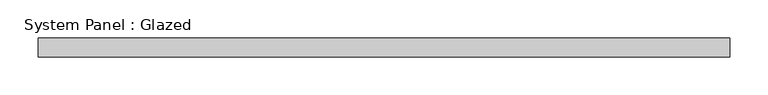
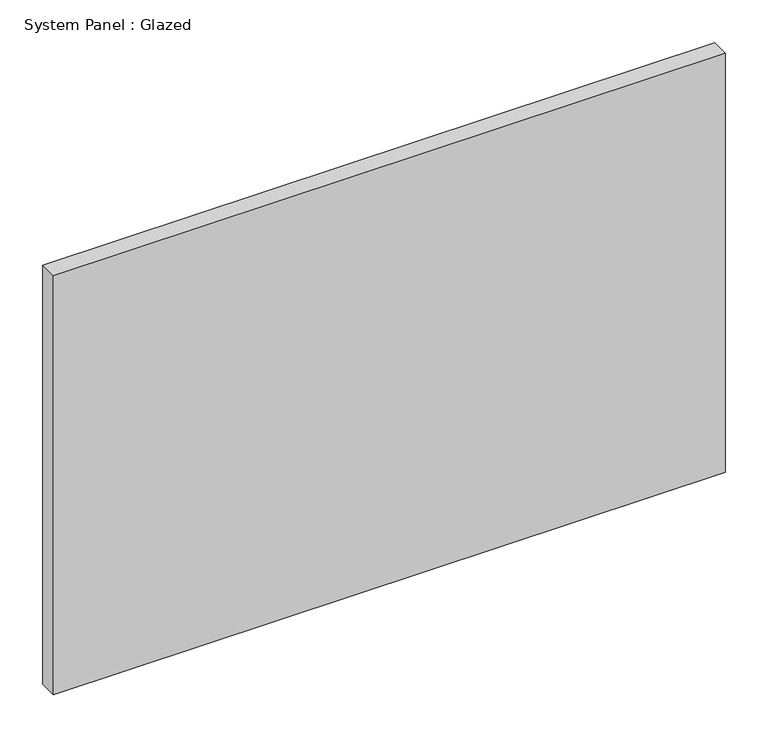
"""IFC4 building model written with IfcOpenShell, lengths in millimetres: plate geometry, System Panel : Glazed."""

from ifc_helpers import new_model, si_unit, origin, origin_with_axes, place, context, project, spatial, polyline, outline, extrude, source, transform, mapped, element, save


def system_panel_glazed_8be31d3e(model_context):
    return source(origin(), model_context, "Body", "SweptSolid", [
        extrude(outline(polyline([(455.0, -72.5), (-455.0, -72.5), (-455.0, -47.5), (455.0, -47.5), (455.0, -72.5)])), origin_with_axes(), (0.0, 0.0, 1.0), 600.0),
    ])


if __name__ == "__main__":
    model = new_model("IFC4")
    model_context = context("Model", 3, world=origin())
    ifc_project = project(units=[si_unit("LENGTHUNIT", "METRE", prefix="MILLI")], contexts=[model_context])
    site = spatial("IfcSite", under=ifc_project)
    building = spatial("IfcBuilding", under=site)
    placement = place(None, origin())
    system_panel_glazed_shape = system_panel_glazed_8be31d3e(model_context)
    element("IfcPlate", 1, ObjectType="System Panel : Glazed", at=placement, inside=building, context=model_context, shape_type="MappedRepresentation", body=[
        mapped(system_panel_glazed_shape, transform((0.0, 0.0, 0.0), x_axis=(1.0, 0.0, 0.0), y_axis=(0.0, 1.0, 0.0), z_axis=(0.0, 0.0, 1.0))),
    ])
    save(model, "model.ifc")
